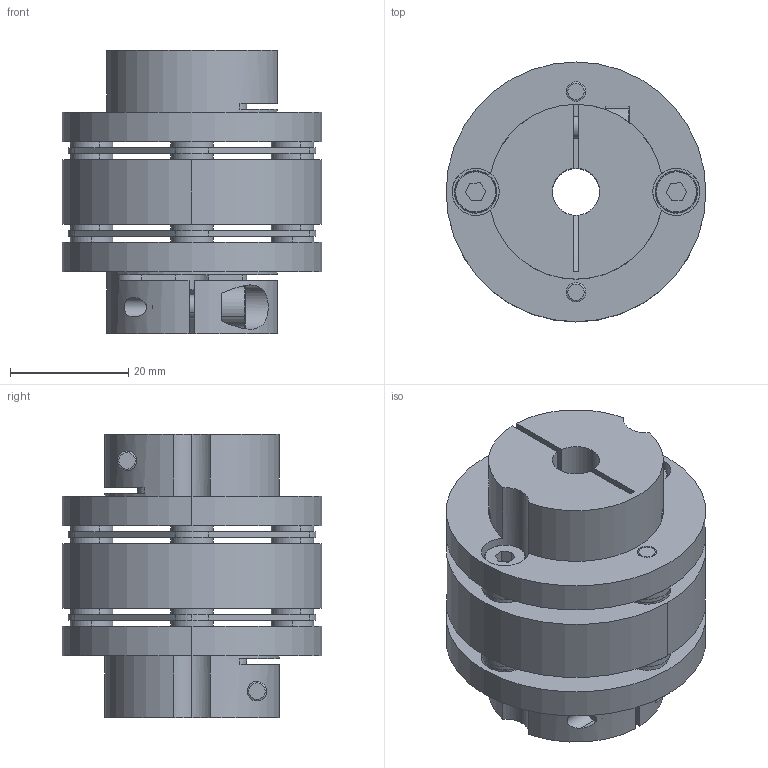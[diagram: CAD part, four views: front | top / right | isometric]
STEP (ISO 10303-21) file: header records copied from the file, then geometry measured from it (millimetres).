
FILE_DESCRIPTION (( 'STEP AP214' ), '1' );
FILE_NAME ('LC-A-040DA-8B-8B.STEP', '2019-09-12T07:18:18', ( 'admin' ), ( 'Microsoft' ), 'SwSTEP 2.0', 'SolidWorks 2016', '' );
FILE_SCHEMA (( 'AUTOMOTIVE_DESIGN' ));
Length unit declared in the file: millimetre
Products named in the file (1): LC-A-040DA-8B-8B
Bounding box: 44 x 44 x 48 mm (x, y, z)
Volume: 40167.7 mm3; surface area: 24556.9 mm2
Topology: 31 solids, 31 shells, 436 faces, 1008 edges, 652 vertices
Faces by surface type: cylinder 204, plane 172, torus 40, cone 20
Entity records: 18008 total; most frequent: DIRECTION 2394, CARTESIAN_POINT 2313, ORIENTED_EDGE 2016, EDGE_CURVE 1008, AXIS2_PLACEMENT_3D 961, VERTEX_POINT 652, EDGE_LOOP 544, CIRCLE 524
